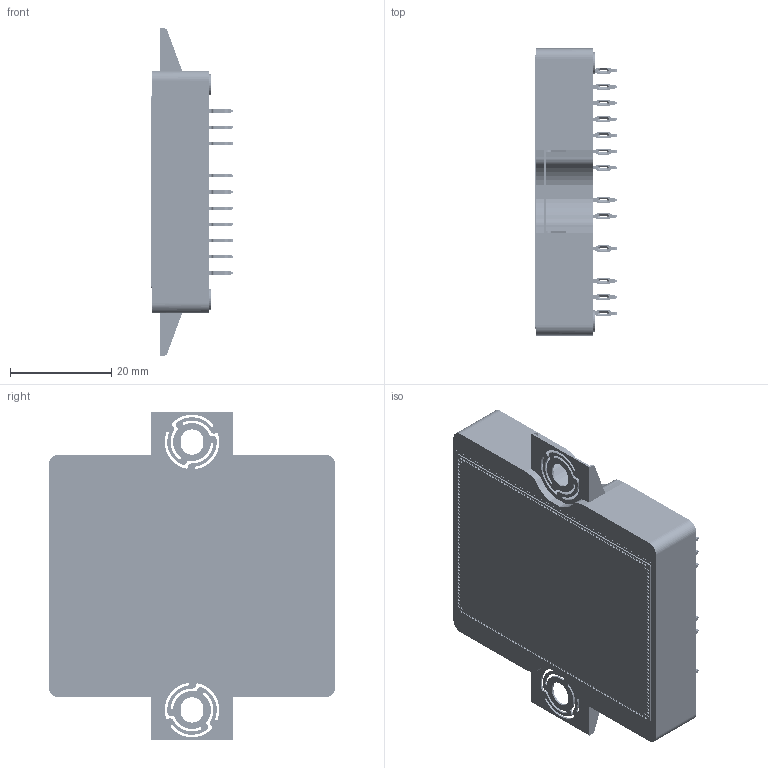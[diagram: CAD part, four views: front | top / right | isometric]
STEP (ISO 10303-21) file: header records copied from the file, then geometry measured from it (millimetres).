
FILE_DESCRIPTION (( 'STEP AP214' ), '1' );
FILE_NAME ('G3F05MT12GB2_SHARED.STEP', '2024-11-28T02:38:58', ( '' ), ( '' ), 'SwSTEP 2.0', 'SolidWorks 2023', '' );
FILE_SCHEMA (( 'AUTOMOTIVE_DESIGN' ));
Length unit declared in the file: millimetre
Products named in the file (8): G3F05MT12GB2_SHARED; HOLDER_4; DBC_ASM_4; HOUSING_3; DBC-CERAMIC_4; HOLDER-ATTACH_4; PRESSFIT-PIN_4; DBC-BOTTOM_CU_3
Assembly tree (77 placements, depth 3):
  G3F05MT12GB2_SHARED
    DBC_ASM_4
      DBC-CERAMIC_4
      DBC-BOTTOM_CU_3
    HOLDER-ATTACH_4
    HOLDER_4  x36
    PRESSFIT-PIN_4  x36
    HOUSING_3
Bounding box: 16.4 x 56.7 x 65 mm (x, y, z)
Volume: 11228.9 mm3; surface area: 22831.7 mm2
Topology: 111 solids, 111 shells, 3804 faces, 9342 edges, 6008 vertices
Faces by surface type: cylinder 1879, plane 1479, torus 288, cone 144, bspline 14
Entity records: 77217 total; most frequent: DIRECTION 10687, CARTESIAN_POINT 9636, ORIENTED_EDGE 9024, EDGE_CURVE 4512, AXIS2_PLACEMENT_3D 4363, VERTEX_POINT 2998, EDGE_LOOP 2752, CIRCLE 2522
